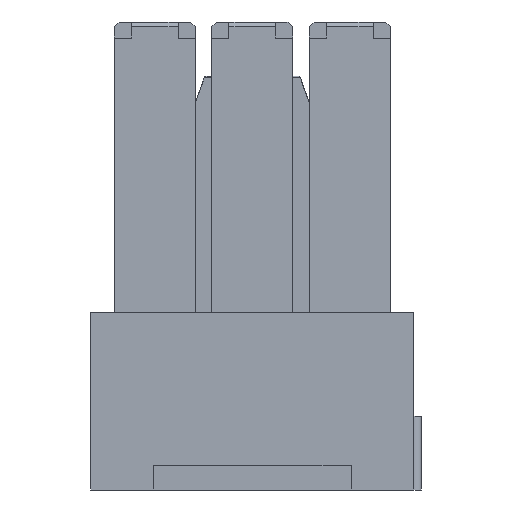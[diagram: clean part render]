
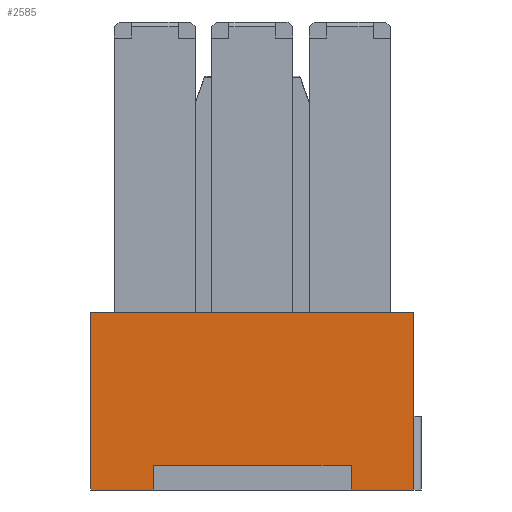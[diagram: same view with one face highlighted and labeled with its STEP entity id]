
A CAD part, front view. The second image highlights one B-rep face of the part: STEP entity #2585.
In plain terms, the highlighted planar face has unit normal (0, -1, 0).
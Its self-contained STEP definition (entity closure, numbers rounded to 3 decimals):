
#12 = CARTESIAN_POINT ( 'NONE',  ( -4.121, -3.238, -8.5 ) ) ;
#110 = CARTESIAN_POINT ( 'NONE',  ( 6.449, -3.238, -8.5 ) ) ;
#111 = DIRECTION ( 'NONE',  ( 1., 0., 0. ) ) ;
#367 = LINE ( 'NONE', #3430, #2094 ) ;
#736 = VERTEX_POINT ( 'NONE', #1567 ) ;
#738 = VERTEX_POINT ( 'NONE', #3602 ) ;
#830 = ORIENTED_EDGE ( 'NONE', *, *, #1053, .T. ) ;
#842 = EDGE_CURVE ( 'NONE', #4297, #3287, #2049, .T. ) ;
#873 = LINE ( 'NONE', #4280, #1592 ) ;
#970 = CARTESIAN_POINT ( 'NONE',  ( -2.711, -3.238, -2.3 ) ) ;
#973 = CARTESIAN_POINT ( 'NONE',  ( 6.449, -3.238, -9.5 ) ) ;
#1033 = DIRECTION ( 'NONE',  ( 1., 0., 0. ) ) ;
#1053 = EDGE_CURVE ( 'NONE', #1292, #738, #873, .T. ) ;
#1066 = VECTOR ( 'NONE', #3904, 1000. ) ;
#1074 = LINE ( 'NONE', #3101, #1066 ) ;
#1181 = EDGE_CURVE ( 'NONE', #736, #1292, #3786, .T. ) ;
#1211 = LINE ( 'NONE', #973, #3588 ) ;
#1290 = EDGE_CURVE ( 'NONE', #3246, #4297, #1074, .T. ) ;
#1292 = VERTEX_POINT ( 'NONE', #12 ) ;
#1303 = ORIENTED_EDGE ( 'NONE', *, *, #1181, .T. ) ;
#1363 = VERTEX_POINT ( 'NONE', #2420 ) ;
#1506 = ORIENTED_EDGE ( 'NONE', *, *, #1290, .F. ) ;
#1567 = CARTESIAN_POINT ( 'NONE',  ( -4.121, -3.238, -9.5 ) ) ;
#1592 = VECTOR ( 'NONE', #111, 1000. ) ;
#1668 = FACE_OUTER_BOUND ( 'NONE', #4401, .T. ) ;
#1704 = DIRECTION ( 'NONE',  ( -1., 0., 0. ) ) ;
#1735 = CARTESIAN_POINT ( 'NONE',  ( 6.449, -3.238, -2.3 ) ) ;
#1748 = VECTOR ( 'NONE', #2208, 1000. ) ;
#1786 = DIRECTION ( 'NONE',  ( 0., 1., 0. ) ) ;
#1828 = LINE ( 'NONE', #110, #3828 ) ;
#1925 = CARTESIAN_POINT ( 'NONE',  ( 3.899, -3.238, -9.5 ) ) ;
#2049 = LINE ( 'NONE', #970, #4195 ) ;
#2094 = VECTOR ( 'NONE', #1033, 1000. ) ;
#2114 = ORIENTED_EDGE ( 'NONE', *, *, #2617, .F. ) ;
#2120 = ORIENTED_EDGE ( 'NONE', *, *, #2907, .T. ) ;
#2188 = DIRECTION ( 'NONE',  ( 0., 0., -1. ) ) ;
#2208 = DIRECTION ( 'NONE',  ( 0., 0., 1. ) ) ;
#2211 = ORIENTED_EDGE ( 'NONE', *, *, #4020, .F. ) ;
#2230 = CARTESIAN_POINT ( 'NONE',  ( -6.671, -3.238, -9.5 ) ) ;
#2335 = ORIENTED_EDGE ( 'NONE', *, *, #3056, .T. ) ;
#2420 = CARTESIAN_POINT ( 'NONE',  ( 6.449, -3.238, -9.5 ) ) ;
#2585 = ADVANCED_FACE ( 'NONE', ( #1668 ), #2987, .F. ) ;
#2617 = EDGE_CURVE ( 'NONE', #4384, #738, #3864, .T. ) ;
#2648 = DIRECTION ( 'NONE',  ( 0., 0., 1. ) ) ;
#2698 = DIRECTION ( 'NONE',  ( 1., 0., 0. ) ) ;
#2715 = CARTESIAN_POINT ( 'NONE',  ( -4.121, -3.238, -11.781 ) ) ;
#2907 = EDGE_CURVE ( 'NONE', #3246, #736, #367, .T. ) ;
#2987 = PLANE ( 'NONE',  #3040 ) ;
#3031 = CARTESIAN_POINT ( 'NONE',  ( -2.711, -3.238, -8.5 ) ) ;
#3040 = AXIS2_PLACEMENT_3D ( 'NONE', #3031, #1786, #2188 ) ;
#3056 = EDGE_CURVE ( 'NONE', #1363, #3287, #1828, .T. ) ;
#3101 = CARTESIAN_POINT ( 'NONE',  ( -6.671, -3.238, -8.5 ) ) ;
#3246 = VERTEX_POINT ( 'NONE', #2230 ) ;
#3275 = CARTESIAN_POINT ( 'NONE',  ( -6.671, -3.238, -2.3 ) ) ;
#3287 = VERTEX_POINT ( 'NONE', #1735 ) ;
#3304 = VECTOR ( 'NONE', #2648, 1000. ) ;
#3430 = CARTESIAN_POINT ( 'NONE',  ( -6.671, -3.238, -9.5 ) ) ;
#3495 = ORIENTED_EDGE ( 'NONE', *, *, #842, .F. ) ;
#3559 = CARTESIAN_POINT ( 'NONE',  ( 3.899, -3.238, -11.781 ) ) ;
#3588 = VECTOR ( 'NONE', #1704, 1000. ) ;
#3602 = CARTESIAN_POINT ( 'NONE',  ( 3.899, -3.238, -8.5 ) ) ;
#3786 = LINE ( 'NONE', #2715, #3304 ) ;
#3828 = VECTOR ( 'NONE', #4206, 1000. ) ;
#3864 = LINE ( 'NONE', #3559, #1748 ) ;
#3904 = DIRECTION ( 'NONE',  ( 0., 0., 1. ) ) ;
#4020 = EDGE_CURVE ( 'NONE', #1363, #4384, #1211, .T. ) ;
#4195 = VECTOR ( 'NONE', #2698, 1000. ) ;
#4206 = DIRECTION ( 'NONE',  ( 0., 0., 1. ) ) ;
#4280 = CARTESIAN_POINT ( 'NONE',  ( -2.711, -3.238, -8.5 ) ) ;
#4297 = VERTEX_POINT ( 'NONE', #3275 ) ;
#4384 = VERTEX_POINT ( 'NONE', #1925 ) ;
#4401 = EDGE_LOOP ( 'NONE', ( #3495, #1506, #2120, #1303, #830, #2114, #2211, #2335 ) ) ;
